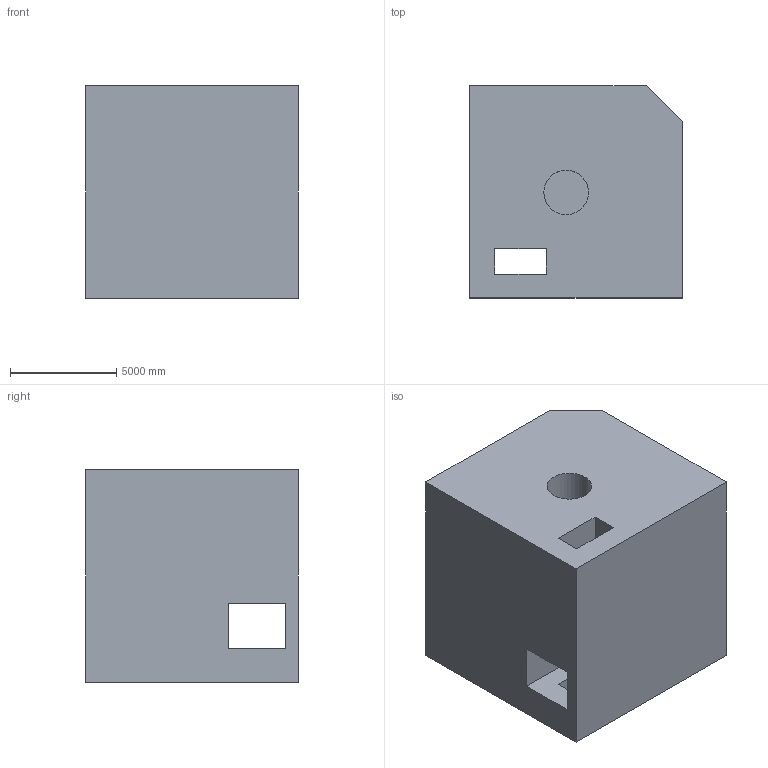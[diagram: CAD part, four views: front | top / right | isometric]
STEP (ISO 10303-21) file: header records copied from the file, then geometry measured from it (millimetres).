
FILE_DESCRIPTION (( 'STEP AP203' ), '1' );
FILE_NAME ('486.STEP', '2022-07-29T11:28:35', ( 'user' ), ( '' ), 'SwSTEP 2.0', 'SolidWorks 2021', '' );
FILE_SCHEMA (( 'CONFIG_CONTROL_DESIGN' ));
Length unit declared in the file: centimetre
Products named in the file (1): 486
Bounding box: 10000 x 10000 x 10000 mm (x, y, z)
Volume: 880241174652.5 mm3; surface area: 762581510 mm2
Topology: 1 solids, 1 shells, 30 faces, 81 edges, 54 vertices
Faces by surface type: plane 28, cylinder 2
Entity records: 1018 total; most frequent: CARTESIAN_POINT 166, ORIENTED_EDGE 162, DIRECTION 147, EDGE_CURVE 81, LINE 77, VECTOR 77, VERTEX_POINT 54, EDGE_LOOP 37
